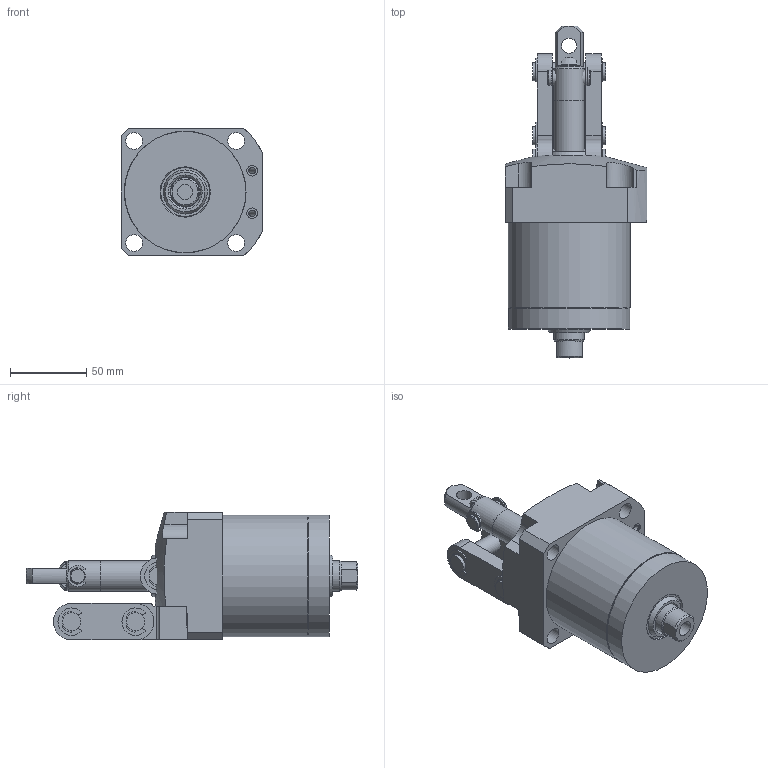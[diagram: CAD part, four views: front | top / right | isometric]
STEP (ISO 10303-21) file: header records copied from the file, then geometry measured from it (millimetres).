
FILE_DESCRIPTION( ( '' ), '1' );
FILE_NAME( 'W:/Catalogue/JL5H/JL5H52-34GRD/JL5H52-34GRD.stp', '2008-05-26T02:10:47', ( '機械事業部産業機器グループ' ), ( '豊和工業株式会社' ), 'XStep 1.0', ' ', ' ' );
FILE_SCHEMA( ( 'CONFIG_CONTROL_DESIGN' ) );
Length unit declared in the file: millimetre
Products named in the file (6): Assem1; 1; 2; 3; 4; 5
Bounding box: 93 x 218 x 84 mm (x, y, z)
Volume: 1267836.6 mm3; surface area: 207930.4 mm2
Topology: 11 solids, 17 shells, 634 faces, 1603 edges, 1043 vertices
Faces by surface type: plane 340, cylinder 236, cone 54, torus 4
Full cylindrical faces by diameter (mm): 2 x2, 4 x4, 7 x8, 9 x10, 10 x10, 11 x12, 12 x14, 18.5 x2, 20 x8, 22 x4, 27 x4, 32 x8, 52 x4, 79 x2, 79.7 x2, 80 x2
Entity records: 9418 total; most frequent: CARTESIAN_POINT 1860, DIRECTION 1600, ORIENTED_EDGE 1366, EDGE_CURVE 683, AXIS2_PLACEMENT_3D 633, VERTEX_POINT 485, EDGE_LOOP 432, FACE_OUTER_BOUND 359
